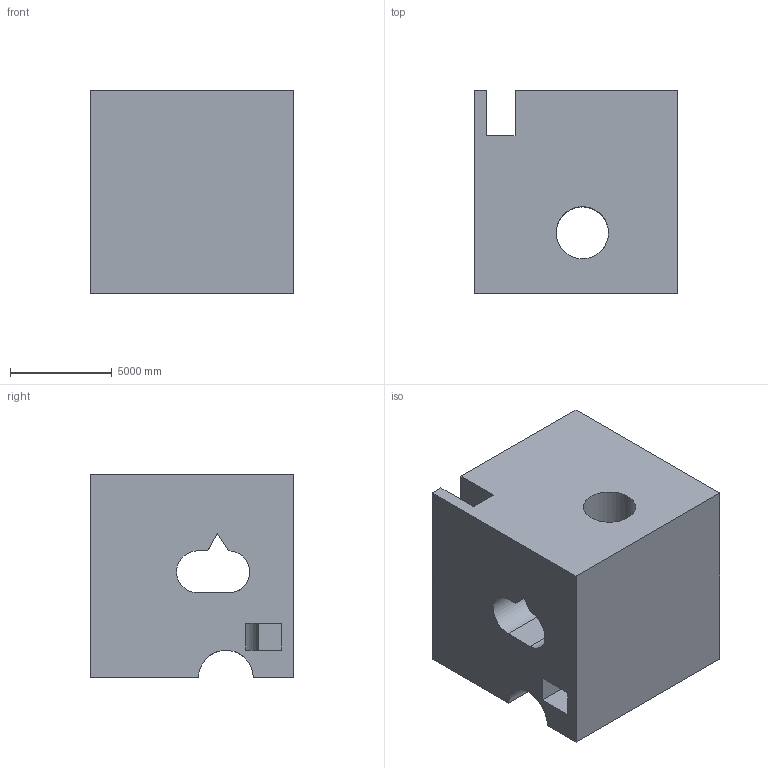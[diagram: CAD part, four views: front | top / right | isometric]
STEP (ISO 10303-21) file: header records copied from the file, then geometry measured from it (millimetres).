
FILE_DESCRIPTION (( 'STEP AP203' ), '1' );
FILE_NAME ('637.STEP', '2022-07-29T12:14:00', ( 'user' ), ( '' ), 'SwSTEP 2.0', 'SolidWorks 2021', '' );
FILE_SCHEMA (( 'CONFIG_CONTROL_DESIGN' ));
Length unit declared in the file: centimetre
Products named in the file (1): 637
Bounding box: 10000 x 10000 x 10000 mm (x, y, z)
Volume: 809790906082.6 mm3; surface area: 814066899.5 mm2
Topology: 1 solids, 1 shells, 33 faces, 102 edges, 68 vertices
Faces by surface type: plane 25, cylinder 8
Entity records: 1800 total; most frequent: CARTESIAN_POINT 810, ORIENTED_EDGE 204, DIRECTION 172, EDGE_CURVE 102, VECTOR 74, LINE 74, VERTEX_POINT 68, AXIS2_PLACEMENT_3D 49
